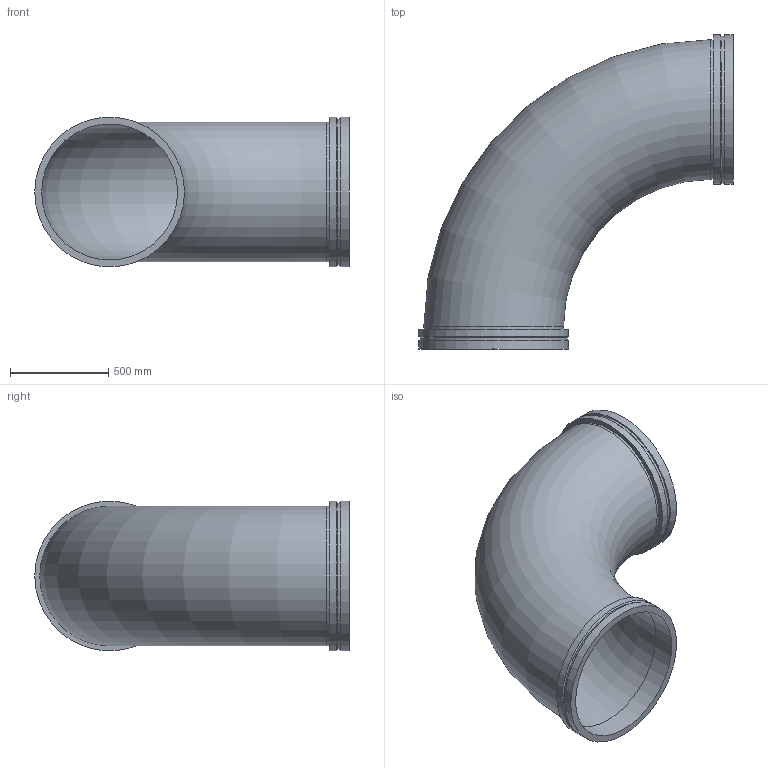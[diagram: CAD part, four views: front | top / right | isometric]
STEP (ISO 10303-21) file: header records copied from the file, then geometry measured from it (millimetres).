
FILE_DESCRIPTION(/* description */ ('VIC 90 DEG ELBOW No W100 VR','CAx-IF Rec.Pracs.---Representation and Presentation of Product Manufacturing Information (PMI)---4.0---2014-10-13'),/* implementation_level */ '2;1');
FILE_NAME(/* name */ 'C:\Users\kkamble\AppData\Roaming\Autodesk\ApplicationPlugins\Back Up\Victaulic_Vic-Ring_Elbow 90 Deg LR_No W100 VR (AGR)\Victaulic_Vic-Ring_Elbow 90 Deg LR_No W100 VR (AGR)_28 (700).stp',/* time_stamp */ '2020-09-10T11:44:06+05:00',/* author */ ('cps_temp'),/* organization */ ('Victaulic'),/* preprocessor_version */ 'ST-DEVELOPER v17.2',/* originating_system */ 'Autodesk Inventor 2019',/* authorisation */ '');
FILE_SCHEMA (('AP242_MANAGED_MODEL_BASED_3D_ENGINEERING_MIM_LF { 1 0 10303 442 1 1 4 }'));
Length unit declared in the file: inch
Products named in the file (1): W100 VR-28.0
Bounding box: 1600.2 x 1600.2 x 762 mm (x, y, z)
Volume: 52613734 mm3; surface area: 9017915.2 mm2
Topology: 1 solids, 1 shells, 20 faces, 51 edges, 37 vertices
Faces by surface type: cylinder 10, plane 6, cone 2, torus 2
Full cylindrical faces by diameter (mm): 692.15 x2, 711.2 x2, 747.522 x2, 762 x4
Entity records: 802 total; most frequent: DIRECTION 158, CARTESIAN_POINT 126, ORIENTED_EDGE 102, AXIS2_PLACEMENT_3D 73, EDGE_CURVE 51, CIRCLE 39, VERTEX_POINT 37, EDGE_LOOP 26
